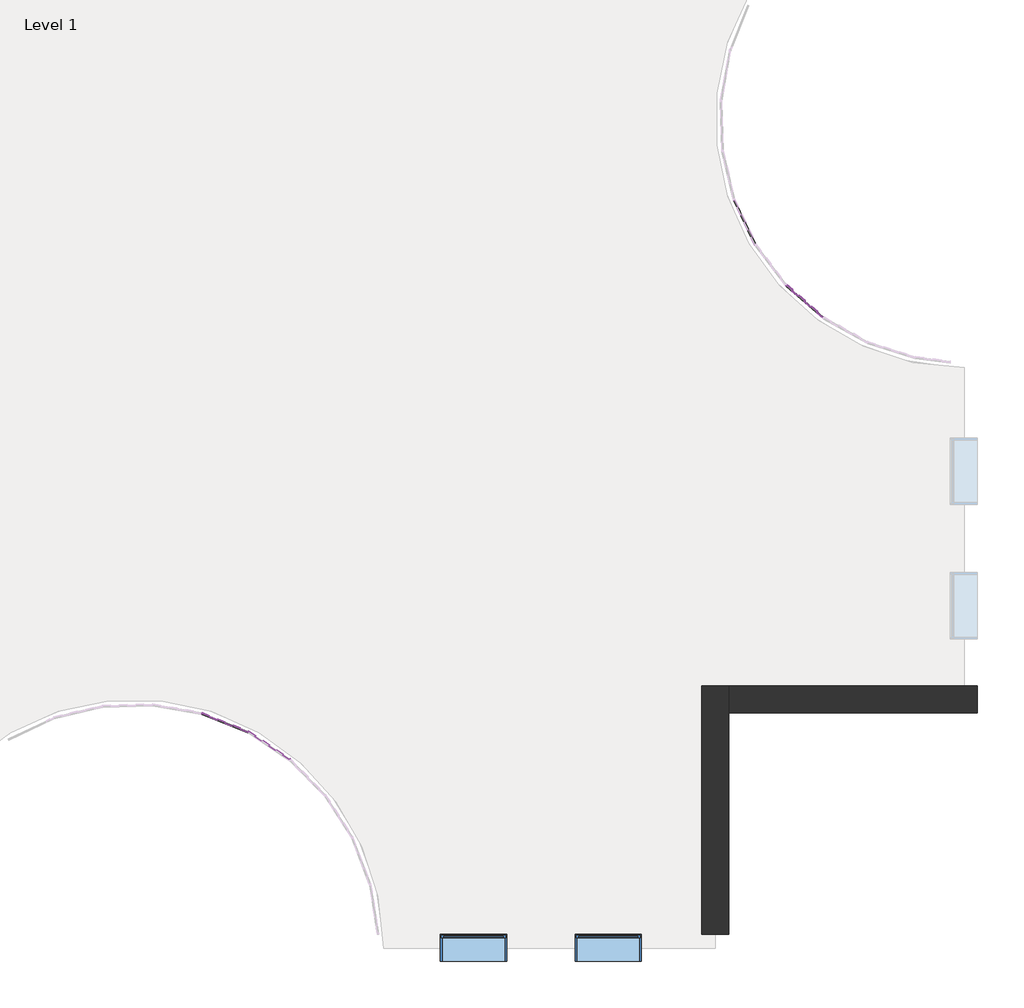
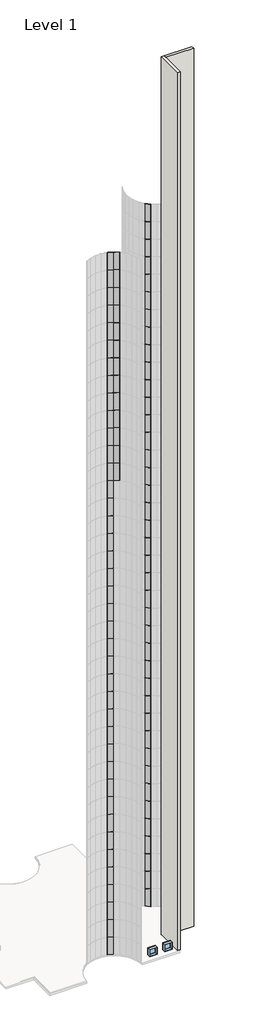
# One storey, part 10 of 19: 122 plates, 2 walls, 2 windows.
"""IFC4 building model written with IfcOpenShell, lengths in millimetres."""

from ifc_helpers import new_model, si_unit, origin, place, context, project, spatial, faceted_brep, transform, mapped, element, save
from components import system_panel_glazed_d77d1ebf, window_d0035ecf, window_d434eb62

model = new_model("IFC4")

# Units and contexts
model_context = context("Model", 3, world=origin())
ifc_project = project(units=[si_unit("LENGTHUNIT", "METRE", prefix="MILLI")], contexts=[model_context])

# Site, building, storey
site = spatial("IfcSite", under=ifc_project)
building = spatial("IfcBuilding", under=site)
storey = spatial("IfcBuildingStorey", under=building, Name="Level 1", Elevation=0.0)

# Plates
placement = place(None, origin())
system_panel_glazed_shape = system_panel_glazed_d77d1ebf(model_context)
element("IfcPlate", 1, ObjectType="System Panel : Glazed", at=placement, inside=storey, context=model_context, shape_type="MappedRepresentation", body=[
    mapped(system_panel_glazed_shape, transform((14758.1742249, -8080.8285707, 0.0), x_axis=(0.4277189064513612, -0.9039117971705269, 0.0), y_axis=(0.9039117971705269, 0.4277189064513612, 0.0), z_axis=(0.0, 0.0, 1.0))),
])
element("IfcPlate", 2, ObjectType="System Panel : Glazed", at=placement, inside=storey, context=model_context, shape_type="MappedRepresentation", body=[
    mapped(system_panel_glazed_shape, transform((15850.2175557, -9523.6237667, 0.0), x_axis=(0.7538025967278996, -0.6571009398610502, 0.0), y_axis=(0.6571009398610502, 0.7538025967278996, 0.0), z_axis=(0.0, 0.0, 1.0))),
])
element("IfcPlate", 3, ObjectType="System Panel : Glazed", at=placement, inside=storey, context=model_context, shape_type="MappedRepresentation", body=[
    mapped(system_panel_glazed_shape, transform((14758.1742249, -8080.8285707, 3048.0), x_axis=(0.4277189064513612, -0.9039117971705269, 0.0), y_axis=(0.9039117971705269, 0.4277189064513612, 0.0), z_axis=(0.0, 0.0, 1.0))),
])
element("IfcPlate", 4, ObjectType="System Panel : Glazed", at=placement, inside=storey, context=model_context, shape_type="MappedRepresentation", body=[
    mapped(system_panel_glazed_shape, transform((15850.2175557, -9523.6237667, 3048.0), x_axis=(0.7538025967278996, -0.6571009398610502, 0.0), y_axis=(0.6571009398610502, 0.7538025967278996, 0.0), z_axis=(0.0, 0.0, 1.0))),
])
element("IfcPlate", 5, ObjectType="System Panel : Glazed", at=placement, inside=storey, context=model_context, shape_type="MappedRepresentation", body=[
    mapped(system_panel_glazed_shape, transform((14758.1742249, -8080.8285707, 6096.0), x_axis=(0.4277189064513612, -0.9039117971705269, 0.0), y_axis=(0.9039117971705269, 0.4277189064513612, 0.0), z_axis=(0.0, 0.0, 1.0))),
])
element("IfcPlate", 6, ObjectType="System Panel : Glazed", at=placement, inside=storey, context=model_context, shape_type="MappedRepresentation", body=[
    mapped(system_panel_glazed_shape, transform((15850.2175557, -9523.6237667, 6096.0), x_axis=(0.7538025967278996, -0.6571009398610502, 0.0), y_axis=(0.6571009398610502, 0.7538025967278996, 0.0), z_axis=(0.0, 0.0, 1.0))),
])
element("IfcPlate", 7, ObjectType="System Panel : Glazed", at=placement, inside=storey, context=model_context, shape_type="MappedRepresentation", body=[
    mapped(system_panel_glazed_shape, transform((14758.1742249, -8080.8285707, 9144.0), x_axis=(0.4277189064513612, -0.9039117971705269, 0.0), y_axis=(0.9039117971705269, 0.4277189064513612, 0.0), z_axis=(0.0, 0.0, 1.0))),
])
element("IfcPlate", 8, ObjectType="System Panel : Glazed", at=placement, inside=storey, context=model_context, shape_type="MappedRepresentation", body=[
    mapped(system_panel_glazed_shape, transform((15850.2175557, -9523.6237667, 9144.0), x_axis=(0.7538025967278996, -0.6571009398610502, 0.0), y_axis=(0.6571009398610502, 0.7538025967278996, 0.0), z_axis=(0.0, 0.0, 1.0))),
])
element("IfcPlate", 9, ObjectType="System Panel : Glazed", at=placement, inside=storey, context=model_context, shape_type="MappedRepresentation", body=[
    mapped(system_panel_glazed_shape, transform((14758.1742249, -8080.8285707, 12192.0), x_axis=(0.4277189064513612, -0.9039117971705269, 0.0), y_axis=(0.9039117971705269, 0.4277189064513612, 0.0), z_axis=(0.0, 0.0, 1.0))),
])
element("IfcPlate", 10, ObjectType="System Panel : Glazed", at=placement, inside=storey, context=model_context, shape_type="MappedRepresentation", body=[
    mapped(system_panel_glazed_shape, transform((15850.2175557, -9523.6237667, 12192.0), x_axis=(0.7538025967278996, -0.6571009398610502, 0.0), y_axis=(0.6571009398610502, 0.7538025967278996, 0.0), z_axis=(0.0, 0.0, 1.0))),
])
element("IfcPlate", 11, ObjectType="System Panel : Glazed", at=placement, inside=storey, context=model_context, shape_type="MappedRepresentation", body=[
    mapped(system_panel_glazed_shape, transform((14758.1742249, -8080.8285707, 15240.0), x_axis=(0.4277189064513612, -0.9039117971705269, 0.0), y_axis=(0.9039117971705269, 0.4277189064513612, 0.0), z_axis=(0.0, 0.0, 1.0))),
])
element("IfcPlate", 12, ObjectType="System Panel : Glazed", at=placement, inside=storey, context=model_context, shape_type="MappedRepresentation", body=[
    mapped(system_panel_glazed_shape, transform((15850.2175557, -9523.6237667, 15240.0), x_axis=(0.7538025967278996, -0.6571009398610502, 0.0), y_axis=(0.6571009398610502, 0.7538025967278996, 0.0), z_axis=(0.0, 0.0, 1.0))),
])
element("IfcPlate", 13, ObjectType="System Panel : Glazed", at=placement, inside=storey, context=model_context, shape_type="MappedRepresentation", body=[
    mapped(system_panel_glazed_shape, transform((14758.1742249, -8080.8285707, 18288.0), x_axis=(0.4277189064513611, -0.9039117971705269, 0.0), y_axis=(0.9039117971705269, 0.4277189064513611, 0.0), z_axis=(0.0, 0.0, 1.0))),
])
element("IfcPlate", 14, ObjectType="System Panel : Glazed", at=placement, inside=storey, context=model_context, shape_type="MappedRepresentation", body=[
    mapped(system_panel_glazed_shape, transform((15850.2175557, -9523.6237667, 18288.0), x_axis=(0.7538025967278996, -0.6571009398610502, 0.0), y_axis=(0.6571009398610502, 0.7538025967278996, 0.0), z_axis=(0.0, 0.0, 1.0))),
])
element("IfcPlate", 15, ObjectType="System Panel : Glazed", at=placement, inside=storey, context=model_context, shape_type="MappedRepresentation", body=[
    mapped(system_panel_glazed_shape, transform((14758.1742249, -8080.8285707, 21336.0), x_axis=(0.4277189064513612, -0.9039117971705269, 0.0), y_axis=(0.9039117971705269, 0.4277189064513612, 0.0), z_axis=(0.0, 0.0, 1.0))),
])
element("IfcPlate", 16, ObjectType="System Panel : Glazed", at=placement, inside=storey, context=model_context, shape_type="MappedRepresentation", body=[
    mapped(system_panel_glazed_shape, transform((15850.2175557, -9523.6237667, 21336.0), x_axis=(0.7538025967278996, -0.6571009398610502, 0.0), y_axis=(0.6571009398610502, 0.7538025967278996, 0.0), z_axis=(0.0, 0.0, 1.0))),
])
element("IfcPlate", 17, ObjectType="System Panel : Glazed", at=placement, inside=storey, context=model_context, shape_type="MappedRepresentation", body=[
    mapped(system_panel_glazed_shape, transform((14758.1742249, -8080.8285707, 24384.0), x_axis=(0.4277189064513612, -0.9039117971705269, 0.0), y_axis=(0.9039117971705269, 0.4277189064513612, 0.0), z_axis=(0.0, 0.0, 1.0))),
])
element("IfcPlate", 18, ObjectType="System Panel : Glazed", at=placement, inside=storey, context=model_context, shape_type="MappedRepresentation", body=[
    mapped(system_panel_glazed_shape, transform((15850.2175557, -9523.6237667, 24384.0), x_axis=(0.7538025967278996, -0.6571009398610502, 0.0), y_axis=(0.6571009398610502, 0.7538025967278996, 0.0), z_axis=(0.0, 0.0, 1.0))),
])
element("IfcPlate", 19, ObjectType="System Panel : Glazed", at=placement, inside=storey, context=model_context, shape_type="MappedRepresentation", body=[
    mapped(system_panel_glazed_shape, transform((14758.1742249, -8080.8285707, 27432.0), x_axis=(0.4277189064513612, -0.9039117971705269, 0.0), y_axis=(0.9039117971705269, 0.4277189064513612, 0.0), z_axis=(0.0, 0.0, 1.0))),
])
element("IfcPlate", 20, ObjectType="System Panel : Glazed", at=placement, inside=storey, context=model_context, shape_type="MappedRepresentation", body=[
    mapped(system_panel_glazed_shape, transform((15850.2175557, -9523.6237667, 27432.0), x_axis=(0.7538025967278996, -0.6571009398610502, 0.0), y_axis=(0.6571009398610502, 0.7538025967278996, 0.0), z_axis=(0.0, 0.0, 1.0))),
])
element("IfcPlate", 21, ObjectType="System Panel : Glazed", at=placement, inside=storey, context=model_context, shape_type="MappedRepresentation", body=[
    mapped(system_panel_glazed_shape, transform((14758.1742249, -8080.8285707, 30480.0), x_axis=(0.4277189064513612, -0.9039117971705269, 0.0), y_axis=(0.9039117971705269, 0.4277189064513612, 0.0), z_axis=(0.0, 0.0, 1.0))),
])
element("IfcPlate", 22, ObjectType="System Panel : Glazed", at=placement, inside=storey, context=model_context, shape_type="MappedRepresentation", body=[
    mapped(system_panel_glazed_shape, transform((15850.2175557, -9523.6237667, 30480.0), x_axis=(0.7538025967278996, -0.6571009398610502, 0.0), y_axis=(0.6571009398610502, 0.7538025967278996, 0.0), z_axis=(0.0, 0.0, 1.0))),
])
element("IfcPlate", 23, ObjectType="System Panel : Glazed", at=placement, inside=storey, context=model_context, shape_type="MappedRepresentation", body=[
    mapped(system_panel_glazed_shape, transform((14758.1742249, -8080.8285707, 33528.0), x_axis=(0.4277189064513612, -0.9039117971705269, 0.0), y_axis=(0.9039117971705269, 0.4277189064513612, 0.0), z_axis=(0.0, 0.0, 1.0))),
])
element("IfcPlate", 24, ObjectType="System Panel : Glazed", at=placement, inside=storey, context=model_context, shape_type="MappedRepresentation", body=[
    mapped(system_panel_glazed_shape, transform((15850.2175557, -9523.6237667, 33528.0), x_axis=(0.7538025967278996, -0.6571009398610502, 0.0), y_axis=(0.6571009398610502, 0.7538025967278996, 0.0), z_axis=(0.0, 0.0, 1.0))),
])
element("IfcPlate", 25, ObjectType="System Panel : Glazed", at=placement, inside=storey, context=model_context, shape_type="MappedRepresentation", body=[
    mapped(system_panel_glazed_shape, transform((14758.1742249, -8080.8285707, 36576.0), x_axis=(0.4277189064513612, -0.9039117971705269, 0.0), y_axis=(0.9039117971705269, 0.4277189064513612, 0.0), z_axis=(0.0, 0.0, 1.0))),
])
element("IfcPlate", 26, ObjectType="System Panel : Glazed", at=placement, inside=storey, context=model_context, shape_type="MappedRepresentation", body=[
    mapped(system_panel_glazed_shape, transform((15850.2175557, -9523.6237667, 36576.0), x_axis=(0.7538025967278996, -0.6571009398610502, 0.0), y_axis=(0.6571009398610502, 0.7538025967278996, 0.0), z_axis=(0.0, 0.0, 1.0))),
])
element("IfcPlate", 27, ObjectType="System Panel : Glazed", at=placement, inside=storey, context=model_context, shape_type="MappedRepresentation", body=[
    mapped(system_panel_glazed_shape, transform((14758.1742249, -8080.8285707, 39624.0), x_axis=(0.4277189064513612, -0.9039117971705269, 0.0), y_axis=(0.9039117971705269, 0.4277189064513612, 0.0), z_axis=(0.0, 0.0, 1.0))),
])
element("IfcPlate", 28, ObjectType="System Panel : Glazed", at=placement, inside=storey, context=model_context, shape_type="MappedRepresentation", body=[
    mapped(system_panel_glazed_shape, transform((15850.2175557, -9523.6237667, 39624.0), x_axis=(0.7538025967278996, -0.6571009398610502, 0.0), y_axis=(0.6571009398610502, 0.7538025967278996, 0.0), z_axis=(0.0, 0.0, 1.0))),
])
element("IfcPlate", 29, ObjectType="System Panel : Glazed", at=placement, inside=storey, context=model_context, shape_type="MappedRepresentation", body=[
    mapped(system_panel_glazed_shape, transform((14758.1742249, -8080.8285707, 42672.0), x_axis=(0.4277189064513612, -0.9039117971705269, 0.0), y_axis=(0.9039117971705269, 0.4277189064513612, 0.0), z_axis=(0.0, 0.0, 1.0))),
])
element("IfcPlate", 30, ObjectType="System Panel : Glazed", at=placement, inside=storey, context=model_context, shape_type="MappedRepresentation", body=[
    mapped(system_panel_glazed_shape, transform((15850.2175557, -9523.6237667, 42672.0), x_axis=(0.7538025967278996, -0.6571009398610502, 0.0), y_axis=(0.6571009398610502, 0.7538025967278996, 0.0), z_axis=(0.0, 0.0, 1.0))),
])
element("IfcPlate", 31, ObjectType="System Panel : Glazed", at=placement, inside=storey, context=model_context, shape_type="MappedRepresentation", body=[
    mapped(system_panel_glazed_shape, transform((14758.1742249, -8080.8285707, 45720.0), x_axis=(0.4277189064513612, -0.9039117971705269, 0.0), y_axis=(0.9039117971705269, 0.4277189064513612, 0.0), z_axis=(0.0, 0.0, 1.0))),
])
element("IfcPlate", 32, ObjectType="System Panel : Glazed", at=placement, inside=storey, context=model_context, shape_type="MappedRepresentation", body=[
    mapped(system_panel_glazed_shape, transform((15850.2175557, -9523.6237667, 45720.0), x_axis=(0.7538025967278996, -0.6571009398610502, 0.0), y_axis=(0.6571009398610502, 0.7538025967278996, 0.0), z_axis=(0.0, 0.0, 1.0))),
])
element("IfcPlate", 33, ObjectType="System Panel : Glazed", at=placement, inside=storey, context=model_context, shape_type="MappedRepresentation", body=[
    mapped(system_panel_glazed_shape, transform((14758.1742249, -8080.8285707, 48768.0), x_axis=(0.4277189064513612, -0.9039117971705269, 0.0), y_axis=(0.9039117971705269, 0.4277189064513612, 0.0), z_axis=(0.0, 0.0, 1.0))),
])
element("IfcPlate", 34, ObjectType="System Panel : Glazed", at=placement, inside=storey, context=model_context, shape_type="MappedRepresentation", body=[
    mapped(system_panel_glazed_shape, transform((15850.2175557, -9523.6237667, 48768.0), x_axis=(0.7538025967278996, -0.6571009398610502, 0.0), y_axis=(0.6571009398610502, 0.7538025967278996, 0.0), z_axis=(0.0, 0.0, 1.0))),
])
element("IfcPlate", 35, ObjectType="System Panel : Glazed", at=placement, inside=storey, context=model_context, shape_type="MappedRepresentation", body=[
    mapped(system_panel_glazed_shape, transform((14758.1742249, -8080.8285707, 51816.0), x_axis=(0.4277189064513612, -0.9039117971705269, 0.0), y_axis=(0.9039117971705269, 0.4277189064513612, 0.0), z_axis=(0.0, 0.0, 1.0))),
])
element("IfcPlate", 36, ObjectType="System Panel : Glazed", at=placement, inside=storey, context=model_context, shape_type="MappedRepresentation", body=[
    mapped(system_panel_glazed_shape, transform((15850.2175557, -9523.6237667, 51816.0), x_axis=(0.7538025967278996, -0.6571009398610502, 0.0), y_axis=(0.6571009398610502, 0.7538025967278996, 0.0), z_axis=(0.0, 0.0, 1.0))),
])
element("IfcPlate", 37, ObjectType="System Panel : Glazed", at=placement, inside=storey, context=model_context, shape_type="MappedRepresentation", body=[
    mapped(system_panel_glazed_shape, transform((14758.1742249, -8080.8285707, 54864.0), x_axis=(0.4277189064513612, -0.9039117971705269, 0.0), y_axis=(0.9039117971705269, 0.4277189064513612, 0.0), z_axis=(0.0, 0.0, 1.0))),
])
element("IfcPlate", 38, ObjectType="System Panel : Glazed", at=placement, inside=storey, context=model_context, shape_type="MappedRepresentation", body=[
    mapped(system_panel_glazed_shape, transform((15850.2175557, -9523.6237667, 54864.0), x_axis=(0.7538025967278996, -0.6571009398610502, 0.0), y_axis=(0.6571009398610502, 0.7538025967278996, 0.0), z_axis=(0.0, 0.0, 1.0))),
])
element("IfcPlate", 39, ObjectType="System Panel : Glazed", at=placement, inside=storey, context=model_context, shape_type="MappedRepresentation", body=[
    mapped(system_panel_glazed_shape, transform((14758.1742249, -8080.8285707, 57912.0), x_axis=(0.4277189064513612, -0.9039117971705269, 0.0), y_axis=(0.9039117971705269, 0.4277189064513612, 0.0), z_axis=(0.0, 0.0, 1.0))),
])
element("IfcPlate", 40, ObjectType="System Panel : Glazed", at=placement, inside=storey, context=model_context, shape_type="MappedRepresentation", body=[
    mapped(system_panel_glazed_shape, transform((15850.2175557, -9523.6237667, 57912.0), x_axis=(0.7538025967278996, -0.6571009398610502, 0.0), y_axis=(0.6571009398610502, 0.7538025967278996, 0.0), z_axis=(0.0, 0.0, 1.0))),
])
element("IfcPlate", 41, ObjectType="System Panel : Glazed", at=placement, inside=storey, context=model_context, shape_type="MappedRepresentation", body=[
    mapped(system_panel_glazed_shape, transform((14758.1742249, -8080.8285707, 60960.0), x_axis=(0.4277189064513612, -0.9039117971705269, 0.0), y_axis=(0.9039117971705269, 0.4277189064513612, 0.0), z_axis=(0.0, 0.0, 1.0))),
])
element("IfcPlate", 42, ObjectType="System Panel : Glazed", at=placement, inside=storey, context=model_context, shape_type="MappedRepresentation", body=[
    mapped(system_panel_glazed_shape, transform((15850.2175557, -9523.6237667, 60960.0), x_axis=(0.7538025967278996, -0.6571009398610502, 0.0), y_axis=(0.6571009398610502, 0.7538025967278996, 0.0), z_axis=(0.0, 0.0, 1.0))),
])
element("IfcPlate", 43, ObjectType="System Panel : Glazed", at=placement, inside=storey, context=model_context, shape_type="MappedRepresentation", body=[
    mapped(system_panel_glazed_shape, transform((14758.1742249, -8080.8285707, 64008.0), x_axis=(0.4277189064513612, -0.9039117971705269, 0.0), y_axis=(0.9039117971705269, 0.4277189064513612, 0.0), z_axis=(0.0, 0.0, 1.0))),
])
element("IfcPlate", 44, ObjectType="System Panel : Glazed", at=placement, inside=storey, context=model_context, shape_type="MappedRepresentation", body=[
    mapped(system_panel_glazed_shape, transform((15850.2175557, -9523.6237667, 64008.0), x_axis=(0.7538025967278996, -0.6571009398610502, 0.0), y_axis=(0.6571009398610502, 0.7538025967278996, 0.0), z_axis=(0.0, 0.0, 1.0))),
])
element("IfcPlate", 45, ObjectType="System Panel : Glazed", at=placement, inside=storey, context=model_context, shape_type="MappedRepresentation", body=[
    mapped(system_panel_glazed_shape, transform((14758.1742249, -8080.8285707, 67056.0), x_axis=(0.4277189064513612, -0.9039117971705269, 0.0), y_axis=(0.9039117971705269, 0.4277189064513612, 0.0), z_axis=(0.0, 0.0, 1.0))),
])
element("IfcPlate", 46, ObjectType="System Panel : Glazed", at=placement, inside=storey, context=model_context, shape_type="MappedRepresentation", body=[
    mapped(system_panel_glazed_shape, transform((15850.2175557, -9523.6237667, 67056.0), x_axis=(0.7538025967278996, -0.6571009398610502, 0.0), y_axis=(0.6571009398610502, 0.7538025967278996, 0.0), z_axis=(0.0, 0.0, 1.0))),
])
element("IfcPlate", 47, ObjectType="System Panel : Glazed", at=placement, inside=storey, context=model_context, shape_type="MappedRepresentation", body=[
    mapped(system_panel_glazed_shape, transform((14758.1742249, -8080.8285707, 70104.0), x_axis=(0.4277189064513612, -0.9039117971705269, 0.0), y_axis=(0.9039117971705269, 0.4277189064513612, 0.0), z_axis=(0.0, 0.0, 1.0))),
])
element("IfcPlate", 48, ObjectType="System Panel : Glazed", at=placement, inside=storey, context=model_context, shape_type="MappedRepresentation", body=[
    mapped(system_panel_glazed_shape, transform((15850.2175557, -9523.6237667, 70104.0), x_axis=(0.7538025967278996, -0.6571009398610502, 0.0), y_axis=(0.6571009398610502, 0.7538025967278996, 0.0), z_axis=(0.0, 0.0, 1.0))),
])
element("IfcPlate", 49, ObjectType="System Panel : Glazed", at=placement, inside=storey, context=model_context, shape_type="MappedRepresentation", body=[
    mapped(system_panel_glazed_shape, transform((14758.1742249, -8080.8285707, 73152.0), x_axis=(0.4277189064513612, -0.9039117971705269, 0.0), y_axis=(0.9039117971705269, 0.4277189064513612, 0.0), z_axis=(0.0, 0.0, 1.0))),
])
element("IfcPlate", 50, ObjectType="System Panel : Glazed", at=placement, inside=storey, context=model_context, shape_type="MappedRepresentation", body=[
    mapped(system_panel_glazed_shape, transform((15850.2175557, -9523.6237667, 73152.0), x_axis=(0.7538025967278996, -0.6571009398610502, 0.0), y_axis=(0.6571009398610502, 0.7538025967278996, 0.0), z_axis=(0.0, 0.0, 1.0))),
])
element("IfcPlate", 51, ObjectType="System Panel : Glazed", at=placement, inside=storey, context=model_context, shape_type="MappedRepresentation", body=[
    mapped(system_panel_glazed_shape, transform((14758.1742249, -8080.8285707, 76200.0), x_axis=(0.4277189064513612, -0.9039117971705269, 0.0), y_axis=(0.9039117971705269, 0.4277189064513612, 0.0), z_axis=(0.0, 0.0, 1.0))),
])
element("IfcPlate", 52, ObjectType="System Panel : Glazed", at=placement, inside=storey, context=model_context, shape_type="MappedRepresentation", body=[
    mapped(system_panel_glazed_shape, transform((15850.2175557, -9523.6237667, 76200.0), x_axis=(0.7538025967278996, -0.6571009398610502, 0.0), y_axis=(0.6571009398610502, 0.7538025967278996, 0.0), z_axis=(0.0, 0.0, 1.0))),
])
element("IfcPlate", 53, ObjectType="System Panel : Glazed", at=placement, inside=storey, context=model_context, shape_type="MappedRepresentation", body=[
    mapped(system_panel_glazed_shape, transform((14758.1742249, -8080.8285707, 79248.0), x_axis=(0.4277189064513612, -0.9039117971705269, 0.0), y_axis=(0.9039117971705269, 0.4277189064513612, 0.0), z_axis=(0.0, 0.0, 1.0))),
])
element("IfcPlate", 54, ObjectType="System Panel : Glazed", at=placement, inside=storey, context=model_context, shape_type="MappedRepresentation", body=[
    mapped(system_panel_glazed_shape, transform((15850.2175557, -9523.6237667, 79248.0), x_axis=(0.7538025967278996, -0.6571009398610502, 0.0), y_axis=(0.6571009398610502, 0.7538025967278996, 0.0), z_axis=(0.0, 0.0, 1.0))),
])
element("IfcPlate", 55, ObjectType="System Panel : Glazed", at=placement, inside=storey, context=model_context, shape_type="MappedRepresentation", body=[
    mapped(system_panel_glazed_shape, transform((14758.1742249, -8080.8285707, 82296.0), x_axis=(0.4277189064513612, -0.9039117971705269, 0.0), y_axis=(0.9039117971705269, 0.4277189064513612, 0.0), z_axis=(0.0, 0.0, 1.0))),
])
element("IfcPlate", 56, ObjectType="System Panel : Glazed", at=placement, inside=storey, context=model_context, shape_type="MappedRepresentation", body=[
    mapped(system_panel_glazed_shape, transform((15850.2175557, -9523.6237667, 82296.0), x_axis=(0.7538025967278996, -0.6571009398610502, 0.0), y_axis=(0.6571009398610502, 0.7538025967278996, 0.0), z_axis=(0.0, 0.0, 1.0))),
])
element("IfcPlate", 57, ObjectType="System Panel : Glazed", at=placement, inside=storey, context=model_context, shape_type="MappedRepresentation", body=[
    mapped(system_panel_glazed_shape, transform((14758.1742249, -8080.8285707, 85344.0), x_axis=(0.4277189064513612, -0.9039117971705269, 0.0), y_axis=(0.9039117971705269, 0.4277189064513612, 0.0), z_axis=(0.0, 0.0, 1.0))),
])
element("IfcPlate", 58, ObjectType="System Panel : Glazed", at=placement, inside=storey, context=model_context, shape_type="MappedRepresentation", body=[
    mapped(system_panel_glazed_shape, transform((15850.2175557, -9523.6237667, 85344.0), x_axis=(0.7538025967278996, -0.6571009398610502, 0.0), y_axis=(0.6571009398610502, 0.7538025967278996, 0.0), z_axis=(0.0, 0.0, 1.0))),
])
element("IfcPlate", 59, ObjectType="System Panel : Glazed", at=placement, inside=storey, context=model_context, shape_type="MappedRepresentation", body=[
    mapped(system_panel_glazed_shape, transform((15850.2175557, -9523.6237667, 88392.0), x_axis=(0.7538025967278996, -0.6571009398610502, 0.0), y_axis=(0.6571009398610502, 0.7538025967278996, 0.0), z_axis=(0.0, 0.0, 1.0))),
])
element("IfcPlate", 60, ObjectType="System Panel : Glazed", at=placement, inside=storey, context=model_context, shape_type="MappedRepresentation", body=[
    mapped(system_panel_glazed_shape, transform((15850.2175557, -9523.6237667, 91440.0), x_axis=(0.7538025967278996, -0.6571009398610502, 0.0), y_axis=(0.6571009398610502, 0.7538025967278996, 0.0), z_axis=(0.0, 0.0, 1.0))),
])
element("IfcPlate", 61, ObjectType="System Panel : Glazed", at=placement, inside=storey, context=model_context, shape_type="MappedRepresentation", body=[
    mapped(system_panel_glazed_shape, transform((15850.2175557, -9523.6237667, 94488.0), x_axis=(0.7538025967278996, -0.6571009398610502, 0.0), y_axis=(0.6571009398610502, 0.7538025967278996, 0.0), z_axis=(0.0, 0.0, 1.0))),
])
element("IfcPlate", 62, ObjectType="System Panel : Glazed", at=placement, inside=storey, context=model_context, shape_type="MappedRepresentation", body=[
    mapped(system_panel_glazed_shape, transform((15850.2175557, -9523.6237667, 97536.0), x_axis=(0.7538025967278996, -0.6571009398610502, 0.0), y_axis=(0.6571009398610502, 0.7538025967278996, 0.0), z_axis=(0.0, 0.0, 1.0))),
])
element("IfcPlate", 63, ObjectType="System Panel : Glazed", at=placement, inside=storey, context=model_context, shape_type="MappedRepresentation", body=[
    mapped(system_panel_glazed_shape, transform((15850.2175557, -9523.6237667, 100584.0), x_axis=(0.7538025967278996, -0.6571009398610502, 0.0), y_axis=(0.6571009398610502, 0.7538025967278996, 0.0), z_axis=(0.0, 0.0, 1.0))),
])
element("IfcPlate", 64, ObjectType="System Panel : Glazed", at=placement, inside=storey, context=model_context, shape_type="MappedRepresentation", body=[
    mapped(system_panel_glazed_shape, transform((15850.2175557, -9523.6237667, 103632.0), x_axis=(0.7538025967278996, -0.6571009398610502, 0.0), y_axis=(0.6571009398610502, 0.7538025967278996, 0.0), z_axis=(0.0, 0.0, 1.0))),
])
element("IfcPlate", 65, ObjectType="System Panel : Glazed", at=placement, inside=storey, context=model_context, shape_type="MappedRepresentation", body=[
    mapped(system_panel_glazed_shape, transform((15850.2175557, -9523.6237667, 106680.0), x_axis=(0.7538025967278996, -0.6571009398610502, 0.0), y_axis=(0.6571009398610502, 0.7538025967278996, 0.0), z_axis=(0.0, 0.0, 1.0))),
])
element("IfcPlate", 66, ObjectType="System Panel : Glazed", at=placement, inside=storey, context=model_context, shape_type="MappedRepresentation", body=[
    mapped(system_panel_glazed_shape, transform((15850.2175557, -9523.6237667, 109728.0), x_axis=(0.7538025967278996, -0.6571009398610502, 0.0), y_axis=(0.6571009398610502, 0.7538025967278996, 0.0), z_axis=(0.0, 0.0, 1.0))),
])
element("IfcPlate", 67, ObjectType="System Panel : Glazed", at=placement, inside=storey, context=model_context, shape_type="MappedRepresentation", body=[
    mapped(system_panel_glazed_shape, transform((15850.2175557, -9523.6237667, 112776.0), x_axis=(0.7538025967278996, -0.6571009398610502, 0.0), y_axis=(0.6571009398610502, 0.7538025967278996, 0.0), z_axis=(0.0, 0.0, 1.0))),
])
element("IfcPlate", 68, ObjectType="System Panel : Glazed", at=placement, inside=storey, context=model_context, shape_type="MappedRepresentation", body=[
    mapped(system_panel_glazed_shape, transform((15850.2175557, -9523.6237667, 115824.0), x_axis=(0.7538025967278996, -0.6571009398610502, 0.0), y_axis=(0.6571009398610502, 0.7538025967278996, 0.0), z_axis=(0.0, 0.0, 1.0))),
])
element("IfcPlate", 69, ObjectType="System Panel : Glazed", at=placement, inside=storey, context=model_context, shape_type="MappedRepresentation", body=[
    mapped(system_panel_glazed_shape, transform((15850.2175557, -9523.6237667, 118872.0), x_axis=(0.7538025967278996, -0.6571009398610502, 0.0), y_axis=(0.6571009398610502, 0.7538025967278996, 0.0), z_axis=(0.0, 0.0, 1.0))),
])
element("IfcPlate", 70, ObjectType="System Panel : Glazed", at=placement, inside=storey, context=model_context, shape_type="MappedRepresentation", body=[
    mapped(system_panel_glazed_shape, transform((5970.8142039, -17746.061316, 82296.0), x_axis=(-0.8322247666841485, 0.5544383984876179, 0.0), y_axis=(-0.5544383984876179, -0.8322247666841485, 0.0), z_axis=(0.0, 0.0, 1.0))),
])
element("IfcPlate", 71, ObjectType="System Panel : Glazed", at=placement, inside=storey, context=model_context, shape_type="MappedRepresentation", body=[
    mapped(system_panel_glazed_shape, transform((5970.8142039, -17746.061316, 85344.0), x_axis=(-0.8322247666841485, 0.5544383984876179, 0.0), y_axis=(-0.5544383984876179, -0.8322247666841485, 0.0), z_axis=(0.0, 0.0, 1.0))),
])
element("IfcPlate", 72, ObjectType="System Panel : Glazed", at=placement, inside=storey, context=model_context, shape_type="MappedRepresentation", body=[
    mapped(system_panel_glazed_shape, transform((5970.8142039, -17746.061316, 88392.0), x_axis=(-0.8322247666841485, 0.5544383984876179, 0.0), y_axis=(-0.5544383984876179, -0.8322247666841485, 0.0), z_axis=(0.0, 0.0, 1.0))),
])
element("IfcPlate", 73, ObjectType="System Panel : Glazed", at=placement, inside=storey, context=model_context, shape_type="MappedRepresentation", body=[
    mapped(system_panel_glazed_shape, transform((5970.8142039, -17746.061316, 91440.0), x_axis=(-0.8322247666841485, 0.5544383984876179, 0.0), y_axis=(-0.5544383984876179, -0.8322247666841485, 0.0), z_axis=(0.0, 0.0, 1.0))),
])
element("IfcPlate", 74, ObjectType="System Panel : Glazed", at=placement, inside=storey, context=model_context, shape_type="MappedRepresentation", body=[
    mapped(system_panel_glazed_shape, transform((5970.8142039, -17746.061316, 94488.0), x_axis=(-0.8322247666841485, 0.5544383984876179, 0.0), y_axis=(-0.5544383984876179, -0.8322247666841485, 0.0), z_axis=(0.0, 0.0, 1.0))),
])
element("IfcPlate", 75, ObjectType="System Panel : Glazed", at=placement, inside=storey, context=model_context, shape_type="MappedRepresentation", body=[
    mapped(system_panel_glazed_shape, transform((5970.8142039, -17746.061316, 97536.0), x_axis=(-0.8322247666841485, 0.5544383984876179, 0.0), y_axis=(-0.5544383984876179, -0.8322247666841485, 0.0), z_axis=(0.0, 0.0, 1.0))),
])
element("IfcPlate", 76, ObjectType="System Panel : Glazed", at=placement, inside=storey, context=model_context, shape_type="MappedRepresentation", body=[
    mapped(system_panel_glazed_shape, transform((5970.8142039, -17746.061316, 100584.0), x_axis=(-0.8322247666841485, 0.5544383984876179, 0.0), y_axis=(-0.5544383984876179, -0.8322247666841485, 0.0), z_axis=(0.0, 0.0, 1.0))),
])
element("IfcPlate", 77, ObjectType="System Panel : Glazed", at=placement, inside=storey, context=model_context, shape_type="MappedRepresentation", body=[
    mapped(system_panel_glazed_shape, transform((5166.0341609, -17322.2415671, 0.0), x_axis=(-0.9280115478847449, 0.3725514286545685, 0.0), y_axis=(-0.3725514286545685, -0.9280115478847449, 0.0), z_axis=(0.0, 0.0, 1.0))),
])
element("IfcPlate", 78, ObjectType="System Panel : Glazed", at=placement, inside=storey, context=model_context, shape_type="MappedRepresentation", body=[
    mapped(system_panel_glazed_shape, transform((5166.0341609, -17322.2415671, 3048.0), x_axis=(-0.9280115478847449, 0.3725514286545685, 0.0), y_axis=(-0.3725514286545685, -0.9280115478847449, 0.0), z_axis=(0.0, 0.0, 1.0))),
])
element("IfcPlate", 79, ObjectType="System Panel : Glazed", at=placement, inside=storey, context=model_context, shape_type="MappedRepresentation", body=[
    mapped(system_panel_glazed_shape, transform((5166.0341609, -17322.2415671, 6096.0), x_axis=(-0.9280115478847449, 0.3725514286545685, 0.0), y_axis=(-0.3725514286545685, -0.9280115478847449, 0.0), z_axis=(0.0, 0.0, 1.0))),
])
element("IfcPlate", 80, ObjectType="System Panel : Glazed", at=placement, inside=storey, context=model_context, shape_type="MappedRepresentation", body=[
    mapped(system_panel_glazed_shape, transform((5166.0341609, -17322.2415671, 9144.0), x_axis=(-0.9280115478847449, 0.3725514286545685, 0.0), y_axis=(-0.3725514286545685, -0.9280115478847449, 0.0), z_axis=(0.0, 0.0, 1.0))),
])
element("IfcPlate", 81, ObjectType="System Panel : Glazed", at=placement, inside=storey, context=model_context, shape_type="MappedRepresentation", body=[
    mapped(system_panel_glazed_shape, transform((5166.0341609, -17322.2415671, 12192.0), x_axis=(-0.9280115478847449, 0.3725514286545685, 0.0), y_axis=(-0.3725514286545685, -0.9280115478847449, 0.0), z_axis=(0.0, 0.0, 1.0))),
])
element("IfcPlate", 82, ObjectType="System Panel : Glazed", at=placement, inside=storey, context=model_context, shape_type="MappedRepresentation", body=[
    mapped(system_panel_glazed_shape, transform((5166.0341609, -17322.2415671, 15240.0), x_axis=(-0.9280115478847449, 0.3725514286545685, 0.0), y_axis=(-0.3725514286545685, -0.9280115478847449, 0.0), z_axis=(0.0, 0.0, 1.0))),
])
element("IfcPlate", 83, ObjectType="System Panel : Glazed", at=placement, inside=storey, context=model_context, shape_type="MappedRepresentation", body=[
    mapped(system_panel_glazed_shape, transform((5166.0341609, -17322.2415671, 18288.0), x_axis=(-0.9280115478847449, 0.3725514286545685, 0.0), y_axis=(-0.3725514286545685, -0.9280115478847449, 0.0), z_axis=(0.0, 0.0, 1.0))),
])
element("IfcPlate", 84, ObjectType="System Panel : Glazed", at=placement, inside=storey, context=model_context, shape_type="MappedRepresentation", body=[
    mapped(system_panel_glazed_shape, transform((5166.0341609, -17322.2415671, 21336.0), x_axis=(-0.9280115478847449, 0.3725514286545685, 0.0), y_axis=(-0.3725514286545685, -0.9280115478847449, 0.0), z_axis=(0.0, 0.0, 1.0))),
])
element("IfcPlate", 85, ObjectType="System Panel : Glazed", at=placement, inside=storey, context=model_context, shape_type="MappedRepresentation", body=[
    mapped(system_panel_glazed_shape, transform((5166.0341609, -17322.2415671, 24384.0), x_axis=(-0.9280115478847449, 0.3725514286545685, 0.0), y_axis=(-0.3725514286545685, -0.9280115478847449, 0.0), z_axis=(0.0, 0.0, 1.0))),
])
element("IfcPlate", 86, ObjectType="System Panel : Glazed", at=placement, inside=storey, context=model_context, shape_type="MappedRepresentation", body=[
    mapped(system_panel_glazed_shape, transform((5166.0341609, -17322.2415671, 27432.0), x_axis=(-0.9280115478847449, 0.3725514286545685, 0.0), y_axis=(-0.3725514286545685, -0.9280115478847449, 0.0), z_axis=(0.0, 0.0, 1.0))),
])
element("IfcPlate", 87, ObjectType="System Panel : Glazed", at=placement, inside=storey, context=model_context, shape_type="MappedRepresentation", body=[
    mapped(system_panel_glazed_shape, transform((5166.0341609, -17322.2415671, 30480.0), x_axis=(-0.9280115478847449, 0.3725514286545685, 0.0), y_axis=(-0.3725514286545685, -0.9280115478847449, 0.0), z_axis=(0.0, 0.0, 1.0))),
])
element("IfcPlate", 88, ObjectType="System Panel : Glazed", at=placement, inside=storey, context=model_context, shape_type="MappedRepresentation", body=[
    mapped(system_panel_glazed_shape, transform((5166.0341609, -17322.2415671, 33528.0), x_axis=(-0.9280115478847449, 0.3725514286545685, 0.0), y_axis=(-0.3725514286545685, -0.9280115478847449, 0.0), z_axis=(0.0, 0.0, 1.0))),
])
element("IfcPlate", 89, ObjectType="System Panel : Glazed", at=placement, inside=storey, context=model_context, shape_type="MappedRepresentation", body=[
    mapped(system_panel_glazed_shape, transform((5166.0341609, -17322.2415671, 36576.0), x_axis=(-0.9280115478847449, 0.3725514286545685, 0.0), y_axis=(-0.3725514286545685, -0.9280115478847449, 0.0), z_axis=(0.0, 0.0, 1.0))),
])
element("IfcPlate", 90, ObjectType="System Panel : Glazed", at=placement, inside=storey, context=model_context, shape_type="MappedRepresentation", body=[
    mapped(system_panel_glazed_shape, transform((5166.0341609, -17322.2415671, 39624.0), x_axis=(-0.9280115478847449, 0.3725514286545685, 0.0), y_axis=(-0.3725514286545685, -0.9280115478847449, 0.0), z_axis=(0.0, 0.0, 1.0))),
])
element("IfcPlate", 91, ObjectType="System Panel : Glazed", at=placement, inside=storey, context=model_context, shape_type="MappedRepresentation", body=[
    mapped(system_panel_glazed_shape, transform((5166.0341609, -17322.2415671, 42672.0), x_axis=(-0.9280115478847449, 0.3725514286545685, 0.0), y_axis=(-0.3725514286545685, -0.9280115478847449, 0.0), z_axis=(0.0, 0.0, 1.0))),
])
element("IfcPlate", 92, ObjectType="System Panel : Glazed", at=placement, inside=storey, context=model_context, shape_type="MappedRepresentation", body=[
    mapped(system_panel_glazed_shape, transform((5166.0341609, -17322.2415671, 45720.0), x_axis=(-0.9280115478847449, 0.3725514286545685, 0.0), y_axis=(-0.3725514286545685, -0.9280115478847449, 0.0), z_axis=(0.0, 0.0, 1.0))),
])
element("IfcPlate", 93, ObjectType="System Panel : Glazed", at=placement, inside=storey, context=model_context, shape_type="MappedRepresentation", body=[
    mapped(system_panel_glazed_shape, transform((5166.0341609, -17322.2415671, 48768.0), x_axis=(-0.9280115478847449, 0.3725514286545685, 0.0), y_axis=(-0.3725514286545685, -0.9280115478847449, 0.0), z_axis=(0.0, 0.0, 1.0))),
])
element("IfcPlate", 94, ObjectType="System Panel : Glazed", at=placement, inside=storey, context=model_context, shape_type="MappedRepresentation", body=[
    mapped(system_panel_glazed_shape, transform((5166.0341609, -17322.2415671, 51816.0), x_axis=(-0.9280115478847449, 0.3725514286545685, 0.0), y_axis=(-0.3725514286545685, -0.9280115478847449, 0.0), z_axis=(0.0, 0.0, 1.0))),
])
element("IfcPlate", 95, ObjectType="System Panel : Glazed", at=placement, inside=storey, context=model_context, shape_type="MappedRepresentation", body=[
    mapped(system_panel_glazed_shape, transform((5166.0341609, -17322.2415671, 54864.0), x_axis=(-0.9280115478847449, 0.3725514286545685, 0.0), y_axis=(-0.3725514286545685, -0.9280115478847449, 0.0), z_axis=(0.0, 0.0, 1.0))),
])
element("IfcPlate", 96, ObjectType="System Panel : Glazed", at=placement, inside=storey, context=model_context, shape_type="MappedRepresentation", body=[
    mapped(system_panel_glazed_shape, transform((5166.0341609, -17322.2415671, 57912.0), x_axis=(-0.9280115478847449, 0.3725514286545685, 0.0), y_axis=(-0.3725514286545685, -0.9280115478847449, 0.0), z_axis=(0.0, 0.0, 1.0))),
])
element("IfcPlate", 97, ObjectType="System Panel : Glazed", at=placement, inside=storey, context=model_context, shape_type="MappedRepresentation", body=[
    mapped(system_panel_glazed_shape, transform((5166.0341609, -17322.2415671, 60960.0), x_axis=(-0.9280115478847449, 0.3725514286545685, 0.0), y_axis=(-0.3725514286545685, -0.9280115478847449, 0.0), z_axis=(0.0, 0.0, 1.0))),
])
element("IfcPlate", 98, ObjectType="System Panel : Glazed", at=placement, inside=storey, context=model_context, shape_type="MappedRepresentation", body=[
    mapped(system_panel_glazed_shape, transform((5166.0341609, -17322.2415671, 64008.0), x_axis=(-0.9280115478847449, 0.3725514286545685, 0.0), y_axis=(-0.3725514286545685, -0.9280115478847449, 0.0), z_axis=(0.0, 0.0, 1.0))),
])
element("IfcPlate", 99, ObjectType="System Panel : Glazed", at=placement, inside=storey, context=model_context, shape_type="MappedRepresentation", body=[
    mapped(system_panel_glazed_shape, transform((5166.0341609, -17322.2415671, 67056.0), x_axis=(-0.9280115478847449, 0.3725514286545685, 0.0), y_axis=(-0.3725514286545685, -0.9280115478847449, 0.0), z_axis=(0.0, 0.0, 1.0))),
])
element("IfcPlate", 100, ObjectType="System Panel : Glazed", at=placement, inside=storey, context=model_context, shape_type="MappedRepresentation", body=[
    mapped(system_panel_glazed_shape, transform((5166.0341609, -17322.2415671, 70104.0), x_axis=(-0.9280115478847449, 0.3725514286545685, 0.0), y_axis=(-0.3725514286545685, -0.9280115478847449, 0.0), z_axis=(0.0, 0.0, 1.0))),
])
element("IfcPlate", 101, ObjectType="System Panel : Glazed", at=placement, inside=storey, context=model_context, shape_type="MappedRepresentation", body=[
    mapped(system_panel_glazed_shape, transform((5166.0341609, -17322.2415671, 73152.0), x_axis=(-0.9280115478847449, 0.3725514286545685, 0.0), y_axis=(-0.3725514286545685, -0.9280115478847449, 0.0), z_axis=(0.0, 0.0, 1.0))),
])
element("IfcPlate", 102, ObjectType="System Panel : Glazed", at=placement, inside=storey, context=model_context, shape_type="MappedRepresentation", body=[
    mapped(system_panel_glazed_shape, transform((5166.0341609, -17322.2415671, 76200.0), x_axis=(-0.9280115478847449, 0.3725514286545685, 0.0), y_axis=(-0.3725514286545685, -0.9280115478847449, 0.0), z_axis=(0.0, 0.0, 1.0))),
])
element("IfcPlate", 103, ObjectType="System Panel : Glazed", at=placement, inside=storey, context=model_context, shape_type="MappedRepresentation", body=[
    mapped(system_panel_glazed_shape, transform((5166.0341609, -17322.2415671, 79248.0), x_axis=(-0.9280115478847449, 0.3725514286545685, 0.0), y_axis=(-0.3725514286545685, -0.9280115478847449, 0.0), z_axis=(0.0, 0.0, 1.0))),
])
element("IfcPlate", 104, ObjectType="System Panel : Glazed", at=placement, inside=storey, context=model_context, shape_type="MappedRepresentation", body=[
    mapped(system_panel_glazed_shape, transform((5166.0341609, -17322.2415671, 82296.0), x_axis=(-0.9280115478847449, 0.3725514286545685, 0.0), y_axis=(-0.3725514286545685, -0.9280115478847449, 0.0), z_axis=(0.0, 0.0, 1.0))),
])
element("IfcPlate", 105, ObjectType="System Panel : Glazed", at=placement, inside=storey, context=model_context, shape_type="MappedRepresentation", body=[
    mapped(system_panel_glazed_shape, transform((5166.0341609, -17322.2415671, 85344.0), x_axis=(-0.9280115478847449, 0.3725514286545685, 0.0), y_axis=(-0.3725514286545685, -0.9280115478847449, 0.0), z_axis=(0.0, 0.0, 1.0))),
])
element("IfcPlate", 106, ObjectType="System Panel : Glazed", at=placement, inside=storey, context=model_context, shape_type="MappedRepresentation", body=[
    mapped(system_panel_glazed_shape, transform((5166.0341609, -17322.2415671, 88392.0), x_axis=(-0.9280115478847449, 0.3725514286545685, 0.0), y_axis=(-0.3725514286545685, -0.9280115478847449, 0.0), z_axis=(0.0, 0.0, 1.0))),
])
element("IfcPlate", 107, ObjectType="System Panel : Glazed", at=placement, inside=storey, context=model_context, shape_type="MappedRepresentation", body=[
    mapped(system_panel_glazed_shape, transform((5166.0341609, -17322.2415671, 91440.0), x_axis=(-0.9280115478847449, 0.3725514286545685, 0.0), y_axis=(-0.3725514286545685, -0.9280115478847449, 0.0), z_axis=(0.0, 0.0, 1.0))),
])
element("IfcPlate", 108, ObjectType="System Panel : Glazed", at=placement, inside=storey, context=model_context, shape_type="MappedRepresentation", body=[
    mapped(system_panel_glazed_shape, transform((5166.0341609, -17322.2415671, 94488.0), x_axis=(-0.9280115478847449, 0.3725514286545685, 0.0), y_axis=(-0.3725514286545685, -0.9280115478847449, 0.0), z_axis=(0.0, 0.0, 1.0))),
])
element("IfcPlate", 109, ObjectType="System Panel : Glazed", at=placement, inside=storey, context=model_context, shape_type="MappedRepresentation", body=[
    mapped(system_panel_glazed_shape, transform((5166.0341609, -17322.2415671, 97536.0), x_axis=(-0.9280115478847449, 0.3725514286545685, 0.0), y_axis=(-0.3725514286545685, -0.9280115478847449, 0.0), z_axis=(0.0, 0.0, 1.0))),
])
element("IfcPlate", 110, ObjectType="System Panel : Glazed", at=placement, inside=storey, context=model_context, shape_type="MappedRepresentation", body=[
    mapped(system_panel_glazed_shape, transform((5166.0341609, -17322.2415671, 100584.0), x_axis=(-0.9280115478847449, 0.3725514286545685, 0.0), y_axis=(-0.3725514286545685, -0.9280115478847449, 0.0), z_axis=(0.0, 0.0, 1.0))),
])
element("IfcPlate", 111, ObjectType="System Panel : Glazed", at=placement, inside=storey, context=model_context, shape_type="MappedRepresentation", body=[
    mapped(system_panel_glazed_shape, transform((5970.8142039, -17746.061316, 103632.0), x_axis=(-0.8322247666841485, 0.5544383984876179, 0.0), y_axis=(-0.5544383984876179, -0.8322247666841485, 0.0), z_axis=(0.0, 0.0, 1.0))),
])
element("IfcPlate", 112, ObjectType="System Panel : Glazed", at=placement, inside=storey, context=model_context, shape_type="MappedRepresentation", body=[
    mapped(system_panel_glazed_shape, transform((5166.0341609, -17322.2415671, 103632.0), x_axis=(-0.9280115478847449, 0.3725514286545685, 0.0), y_axis=(-0.3725514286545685, -0.9280115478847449, 0.0), z_axis=(0.0, 0.0, 1.0))),
])
element("IfcPlate", 113, ObjectType="System Panel : Glazed", at=placement, inside=storey, context=model_context, shape_type="MappedRepresentation", body=[
    mapped(system_panel_glazed_shape, transform((5970.8142039, -17746.061316, 106680.0), x_axis=(-0.8322247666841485, 0.5544383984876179, 0.0), y_axis=(-0.5544383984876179, -0.8322247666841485, 0.0), z_axis=(0.0, 0.0, 1.0))),
])
element("IfcPlate", 114, ObjectType="System Panel : Glazed", at=placement, inside=storey, context=model_context, shape_type="MappedRepresentation", body=[
    mapped(system_panel_glazed_shape, transform((5166.0341609, -17322.2415671, 106680.0), x_axis=(-0.9280115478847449, 0.3725514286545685, 0.0), y_axis=(-0.3725514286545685, -0.9280115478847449, 0.0), z_axis=(0.0, 0.0, 1.0))),
])
element("IfcPlate", 115, ObjectType="System Panel : Glazed", at=placement, inside=storey, context=model_context, shape_type="MappedRepresentation", body=[
    mapped(system_panel_glazed_shape, transform((5970.8142039, -17746.061316, 109728.0), x_axis=(-0.8322247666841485, 0.5544383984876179, 0.0), y_axis=(-0.5544383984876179, -0.8322247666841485, 0.0), z_axis=(0.0, 0.0, 1.0))),
])
element("IfcPlate", 116, ObjectType="System Panel : Glazed", at=placement, inside=storey, context=model_context, shape_type="MappedRepresentation", body=[
    mapped(system_panel_glazed_shape, transform((5166.0341609, -17322.2415671, 109728.0), x_axis=(-0.9280115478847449, 0.3725514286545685, 0.0), y_axis=(-0.3725514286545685, -0.9280115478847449, 0.0), z_axis=(0.0, 0.0, 1.0))),
])
element("IfcPlate", 117, ObjectType="System Panel : Glazed", at=placement, inside=storey, context=model_context, shape_type="MappedRepresentation", body=[
    mapped(system_panel_glazed_shape, transform((5970.8142039, -17746.061316, 112776.0), x_axis=(-0.8322247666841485, 0.5544383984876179, 0.0), y_axis=(-0.5544383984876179, -0.8322247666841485, 0.0), z_axis=(0.0, 0.0, 1.0))),
])
element("IfcPlate", 118, ObjectType="System Panel : Glazed", at=placement, inside=storey, context=model_context, shape_type="MappedRepresentation", body=[
    mapped(system_panel_glazed_shape, transform((5166.0341609, -17322.2415671, 112776.0), x_axis=(-0.9280115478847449, 0.3725514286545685, 0.0), y_axis=(-0.3725514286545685, -0.9280115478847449, 0.0), z_axis=(0.0, 0.0, 1.0))),
])
element("IfcPlate", 119, ObjectType="System Panel : Glazed", at=placement, inside=storey, context=model_context, shape_type="MappedRepresentation", body=[
    mapped(system_panel_glazed_shape, transform((5970.8142039, -17746.061316, 115824.0), x_axis=(-0.8322247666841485, 0.5544383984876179, 0.0), y_axis=(-0.5544383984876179, -0.8322247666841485, 0.0), z_axis=(0.0, 0.0, 1.0))),
])
element("IfcPlate", 120, ObjectType="System Panel : Glazed", at=placement, inside=storey, context=model_context, shape_type="MappedRepresentation", body=[
    mapped(system_panel_glazed_shape, transform((5166.0341609, -17322.2415671, 115824.0), x_axis=(-0.9280115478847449, 0.3725514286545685, 0.0), y_axis=(-0.3725514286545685, -0.9280115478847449, 0.0), z_axis=(0.0, 0.0, 1.0))),
])
element("IfcPlate", 121, ObjectType="System Panel : Glazed", at=placement, inside=storey, context=model_context, shape_type="MappedRepresentation", body=[
    mapped(system_panel_glazed_shape, transform((5970.8142039, -17746.061316, 118872.0), x_axis=(-0.8322247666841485, 0.5544383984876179, 0.0), y_axis=(-0.5544383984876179, -0.8322247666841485, 0.0), z_axis=(0.0, 0.0, 1.0))),
])
element("IfcPlate", 122, ObjectType="System Panel : Glazed", at=placement, inside=storey, context=model_context, shape_type="MappedRepresentation", body=[
    mapped(system_panel_glazed_shape, transform((5166.0341609, -17322.2415671, 118872.0), x_axis=(-0.9280115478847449, 0.3725514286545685, 0.0), y_axis=(-0.3725514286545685, -0.9280115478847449, 0.0), z_axis=(0.0, 0.0, 1.0))),
])

# Walls
element("IfcWall", 123, ObjectType="Exterior - Brick on CMU", at=placement, inside=storey, context=model_context, shape_type="Brep", body=[
    faceted_brep([(14430.1120544, -21177.5115453, 0.0), (14430.1120544, -17100.8115453, 0.0), (14430.1120544, -16605.5115453, 0.0), (14430.1120544, -16605.5115453, 152400.0), (14430.1120544, -17100.8115453, 152400.0), (14430.1120544, -21177.5115453, 152400.0), (13934.8120544, -21177.5115453, 0.0), (13934.8120544, -21177.5115453, 152400.0), (13934.8120544, -16605.5115453, 152400.0), (13934.8120544, -16605.5115453, 0.0)], [[[0, 1, 2, 3, 4, 5]], [[6, 7, 8, 9]], [[2, 1, 0, 6, 9]], [[5, 4, 3, 8, 7]], [[3, 2, 9, 8]], [[0, 5, 7, 6]]]),
])
element("IfcWall", 124, ObjectType="Exterior - Brick on CMU", at=placement, inside=storey, context=model_context, shape_type="Brep", body=[
    faceted_brep([(14430.1120544, -17100.8115453, 0.0), (19002.1120544, -17100.8115453, 0.0), (19002.1120544, -17100.8115453, 152400.0), (14430.1120544, -17100.8115453, 152400.0), (14430.1120544, -16605.5115453, 0.0), (14430.1120544, -16605.5115453, 152400.0), (18506.8120544, -16605.5115453, 152400.0), (19002.1120544, -16605.5115453, 152400.0), (19002.1120544, -16605.5115453, 0.0), (18506.8120544, -16605.5115453, 0.0)], [[[0, 1, 2, 3]], [[4, 5, 6, 7, 8, 9]], [[1, 0, 4, 9, 8]], [[3, 2, 7, 6, 5]], [[2, 1, 8, 7]], [[0, 3, 5, 4]]]),
])

# Windows
window_shape = window_d0035ecf(model_context)
element("IfcWindow", 125, ObjectType="Fixed : 48\" x 48\"", at=placement, inside=storey, context=model_context, shape_type="MappedRepresentation", body=[
    mapped(window_shape, transform((12256.8234368, -21425.1615453, 0.0), x_axis=(1.0, 0.0, 0.0), y_axis=(0.0, 1.0, 0.0), z_axis=(0.0, 0.0, 1.0))),
])
window_2_shape = window_d434eb62(model_context)
element("IfcWindow", 126, ObjectType="Fixed : 48\" x 48\"", at=placement, inside=storey, context=model_context, shape_type="MappedRepresentation", body=[
    mapped(window_2_shape, transform((9705.7120544, -21425.1615453, 0.0), x_axis=(-1.0, 0.0, 0.0), y_axis=(0.0, -1.0, 0.0), z_axis=(0.0, 0.0, 1.0))),
])

save(model, "model.ifc")
